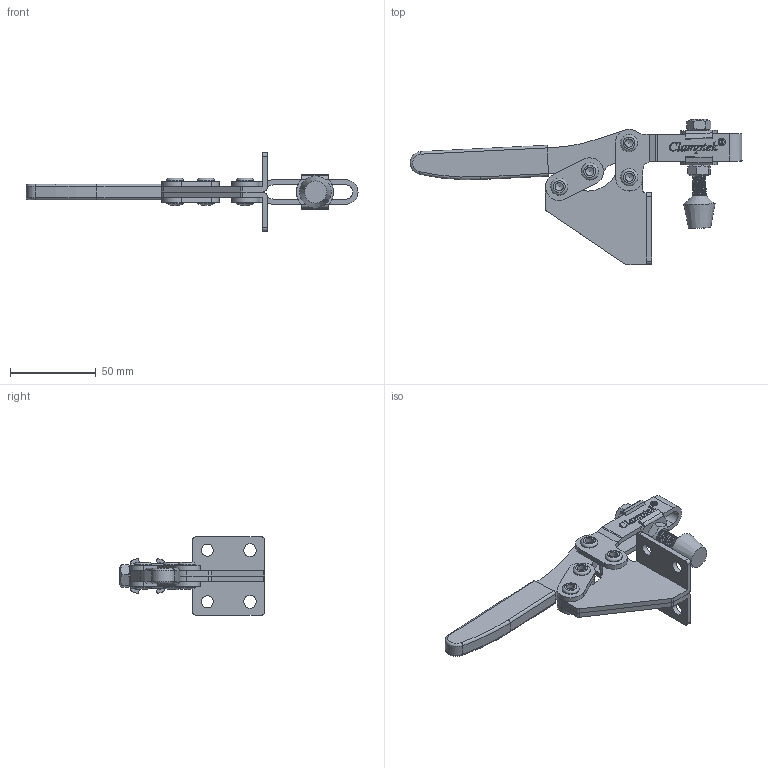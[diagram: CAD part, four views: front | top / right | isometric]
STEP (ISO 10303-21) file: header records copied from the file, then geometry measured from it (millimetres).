
FILE_DESCRIPTION(/* description */ ('STEP AP203'),/* implementation_level */ '2;1');
FILE_NAME(/* name */ 'E:\STRONA\Horizontal toggle clamp\CH-202-F\CH-202-F_ZAMKNIETY.stp',/* time_stamp */ '2019-01-15T13:23:52+01:00',/* author */ ('Admin'),/* organization */ ('Î¢ÈíÖÐ¹ú'),/* preprocessor_version */ 'ST-DEVELOPER v17.2',/* originating_system */ 'Autodesk Inventor 2019',/* authorisation */ '');
FILE_SCHEMA (('AUTOMOTIVE_DESIGN { 1 0 10303 214 3 1 1 }'));
Products named in the file (11): CH-202-F_ZAMKNIETY; 56212; 202-F-02; 03; 203-F-03; 203-F-03-02; 202-F-01; 56212-02; 203-F-04; 225-D-06; FW516
Assembly tree (16 placements, depth 3):
  CH-202-F_ZAMKNIETY
    56212-02  x2
    56212
    225-D-06  x4
    202-F-02
    03
      203-F-03
      203-F-03-02
    202-F-01
    FW516  x2
    203-F-04  x2
Bounding box: 194.16 x 84.89 x 46 mm (x, y, z)
Volume: 57092 mm3; surface area: 46171.1 mm2
Topology: 16 solids, 16 shells, 612 faces, 1694 edges, 1147 vertices
Faces by surface type: plane 257, bspline 170, cylinder 145, torus 20, cone 16, sphere 4
Full cylindrical faces by diameter (mm): 2.8 x1, 4.4 x1, 4.833 x4, 6.3 x10, 6.4 x14, 7 x2, 7.4 x2, 7.92 x32, 8.1 x2, 10 x8
Entity records: 41262 total; most frequent: CARTESIAN_POINT 28246, ORIENTED_EDGE 2954, DIRECTION 2055, EDGE_CURVE 1477, VERTEX_POINT 996, LINE 797, VECTOR 797, AXIS2_PLACEMENT_3D 629
